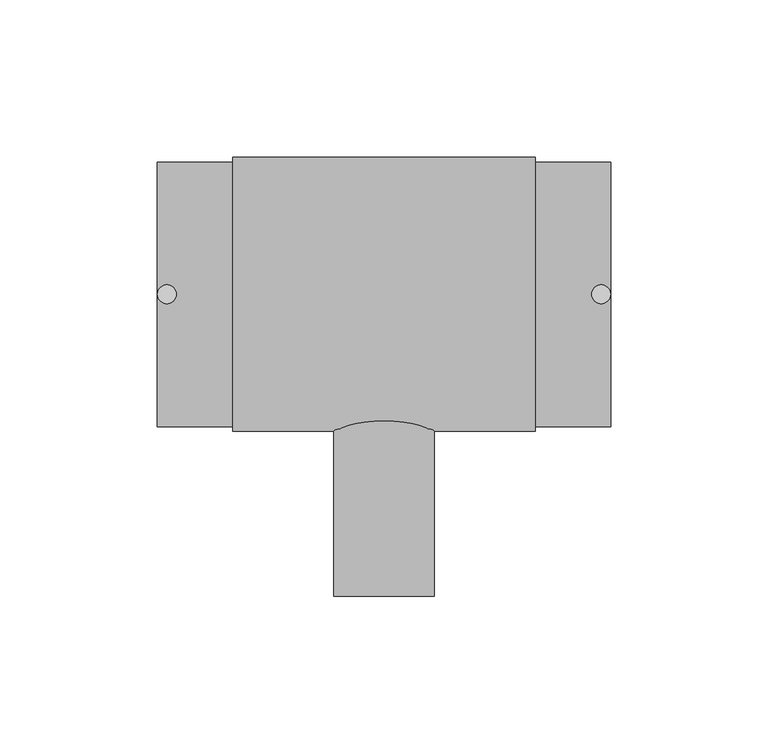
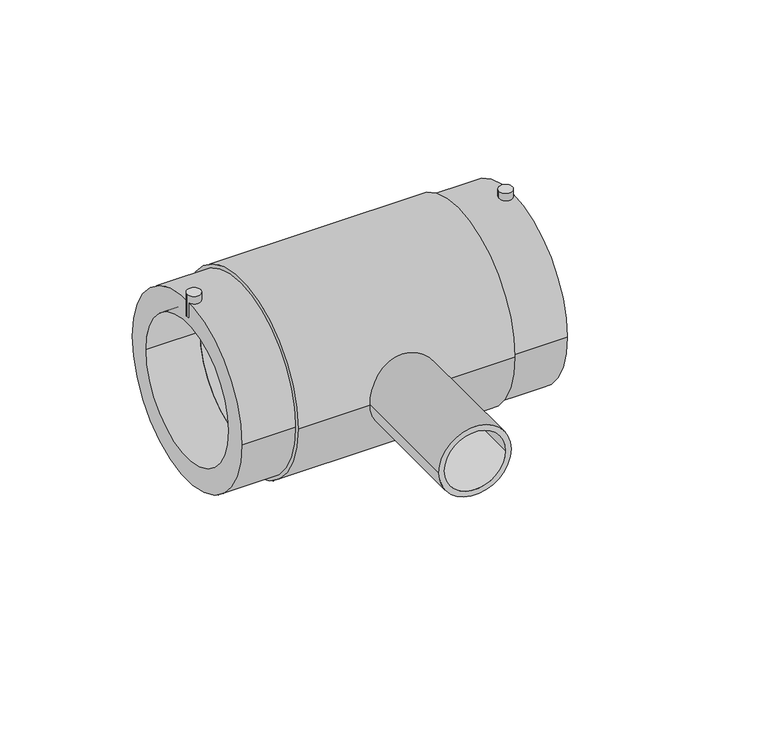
"""IFC4 building model written with IfcOpenShell, lengths in millimetres: pipe fitting geometry, EGB_VASEN_ PPR_Te electrosoldable WXRD300_Te reducida electrosoldable WXRD310 : Te electrosoldable."""

from ifc_helpers import new_model, si_unit, point, frame, frame_2d, origin, origin_2d, place, context, project, spatial, circle_curve, trimmed, segment, composite_curve, outline, extrude, source, transform, mapped, element, save


def pipe_fitting_8c9ba115(model_context):
    return source(origin(), model_context, "Body", "SweptSolid", [
        extrude(outline(composite_curve([segment(trimmed(circle_curve(frame_2d((-69.0, 0.0)), 3.0), [point((-72.0, 0.0))], [point((-66.0, 0.0))], False, "CARTESIAN"), True, "CONTINUOUS"), segment(trimmed(circle_curve(frame_2d((-69.0, 0.0)), 3.0), [point((-66.0, 0.0))], [point((-72.0, 0.0))], False, "CARTESIAN"), True, "CONTINUOUS")], self_intersect=False)), frame((0.0, 0.0, 34.5), z_axis=(0.0, 0.0, 1.0), x_axis=(1.0, 0.0, 0.0)), (0.0, 0.0, 1.0), 10.5),
        extrude(outline(composite_curve([segment(trimmed(circle_curve(frame_2d((69.0, 0.0)), 3.0), [point((66.0, 0.0))], [point((72.0, 0.0))], False, "CARTESIAN"), True, "CONTINUOUS"), segment(trimmed(circle_curve(frame_2d((69.0, 0.0)), 3.0), [point((72.0, 0.0))], [point((66.0, 0.0))], False, "CARTESIAN"), True, "CONTINUOUS")], self_intersect=False)), frame((0.0, 0.0, 34.5), z_axis=(0.0, 0.0, 1.0), x_axis=(1.0, 0.0, 0.0)), (0.0, 0.0, 1.0), 10.5),
        extrude(outline(composite_curve([segment(trimmed(circle_curve(origin_2d(), 18.5), [point((0.0, 18.5))], [point((0.0, -18.5))], False, "CARTESIAN"), True, "CONTINUOUS"), segment(trimmed(circle_curve(origin_2d(), 18.5), [point((0.0, -18.5))], [point((0.0, 18.5))], False, "CARTESIAN"), True, "CONTINUOUS")], self_intersect=False)), frame((0.0, -38.4, 0.0), z_axis=(0.0, 1.0, 0.0), x_axis=(0.0, 0.0, 1.0)), (0.0, 0.0, 1.0), 38.4),
        extrude(outline(composite_curve([segment(trimmed(circle_curve(origin_2d(), 16.0), [point((0.0, -16.0))], [point((0.0, 16.0))], False, "CARTESIAN"), True, "CONTINUOUS"), segment(trimmed(circle_curve(origin_2d(), 16.0), [point((0.0, 16.0))], [point((0.0, -16.0))], False, "CARTESIAN"), True, "CONTINUOUS")], self_intersect=False), holes=[composite_curve([segment(trimmed(circle_curve(origin_2d(), 13.5), [point((0.0, -13.5))], [point((0.0, 13.5))], True, "CARTESIAN"), True, "CONTINUOUS"), segment(trimmed(circle_curve(origin_2d(), 13.5), [point((0.0, 13.5))], [point((0.0, -13.5))], True, "CARTESIAN"), True, "CONTINUOUS")], self_intersect=False)]), frame((0.0, -96.0, 0.0), z_axis=(0.0, 1.0, 0.0), x_axis=(0.0, 0.0, 1.0)), (0.0, 0.0, 1.0), 57.6),
        extrude(outline(composite_curve([segment(trimmed(circle_curve(origin_2d(), 43.5), [point((-43.5, 0.0))], [point((43.5, 0.0))], False, "CARTESIAN"), True, "CONTINUOUS"), segment(trimmed(circle_curve(origin_2d(), 43.5), [point((43.5, 0.0))], [point((-43.5, 0.0))], False, "CARTESIAN"), True, "CONTINUOUS")], self_intersect=False), holes=[composite_curve([segment(trimmed(circle_curve(origin_2d(), 31.5), [point((-31.5, 0.0))], [point((31.5, 0.0))], True, "CARTESIAN"), True, "CONTINUOUS"), segment(trimmed(circle_curve(origin_2d(), 31.5), [point((31.5, 0.0))], [point((-31.5, 0.0))], True, "CARTESIAN"), True, "CONTINUOUS")], self_intersect=False)]), frame((-48.0, 0.0, 0.0), z_axis=(1.0, 0.0, 0.0), x_axis=(0.0, 1.0, 0.0)), (0.0, 0.0, 1.0), 96.0),
        extrude(outline(composite_curve([segment(trimmed(circle_curve(origin_2d(), 42.0), [point((-42.0, 0.0))], [point((42.0, 0.0))], False, "CARTESIAN"), True, "CONTINUOUS"), segment(trimmed(circle_curve(origin_2d(), 42.0), [point((42.0, 0.0))], [point((-42.0, 0.0))], False, "CARTESIAN"), True, "CONTINUOUS")], self_intersect=False), holes=[composite_curve([segment(trimmed(circle_curve(origin_2d(), 31.5), [point((-31.5, 0.0))], [point((31.5, 0.0))], True, "CARTESIAN"), True, "CONTINUOUS"), segment(trimmed(circle_curve(origin_2d(), 31.5), [point((31.5, 0.0))], [point((-31.5, 0.0))], True, "CARTESIAN"), True, "CONTINUOUS")], self_intersect=False)]), frame((-72.0, 0.0, 0.0), z_axis=(1.0, 0.0, 0.0), x_axis=(0.0, 1.0, 0.0)), (0.0, 0.0, 1.0), 144.0),
    ])


if __name__ == "__main__":
    model = new_model("IFC4")
    model_context = context("Model", 3, world=origin())
    ifc_project = project(units=[si_unit("LENGTHUNIT", "METRE", prefix="MILLI")], contexts=[model_context])
    site = spatial("IfcSite", under=ifc_project)
    building = spatial("IfcBuilding", under=site)
    placement = place(None, origin())
    pipe_fitting_shape = pipe_fitting_8c9ba115(model_context)
    element("IfcPipeFitting", 1, ObjectType="EGB_VASEN_ PPR_Te electrosoldable WXRD300_Te reducida electrosoldable WXRD310 : Te electrosoldable", at=placement, inside=building, context=model_context, shape_type="MappedRepresentation", body=[
        mapped(pipe_fitting_shape, transform((0.0, 0.0, 0.0), x_axis=(1.0, 0.0, 0.0), y_axis=(0.0, 1.0, 0.0), z_axis=(0.0, 0.0, 1.0))),
    ])
    save(model, "model.ifc")
